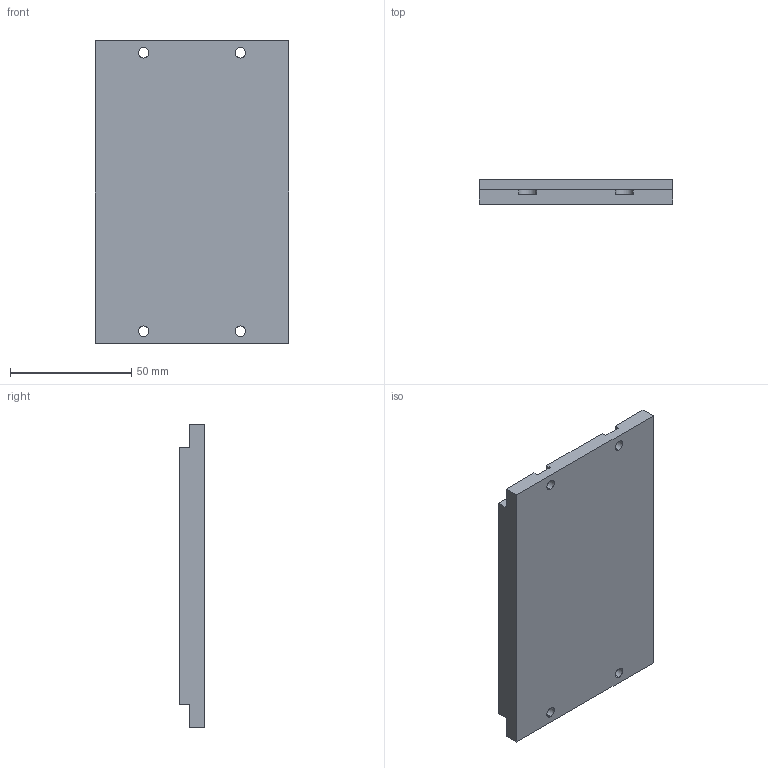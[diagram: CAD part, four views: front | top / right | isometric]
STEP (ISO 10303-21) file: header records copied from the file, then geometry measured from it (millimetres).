
FILE_DESCRIPTION (( 'STEP AP214' ), '1' );
FILE_NAME ('A-MJM100-L80.STEP', '2025-09-05T11:31:14', ( '' ), ( '' ), 'SwSTEP 2.0', 'SolidWorks 2016', '' );
FILE_SCHEMA (( 'AUTOMOTIVE_DESIGN' ));
Length unit declared in the file: millimetre
Products named in the file (1): A-MJM100-L80
Bounding box: 80 x 10.3 x 125 mm (x, y, z)
Volume: 95892.5 mm3; surface area: 24277.3 mm2
Topology: 1 solids, 1 shells, 36 faces, 102 edges, 68 vertices
Faces by surface type: plane 22, cylinder 14
Entity records: 1224 total; most frequent: CARTESIAN_POINT 207, ORIENTED_EDGE 204, DIRECTION 204, EDGE_CURVE 102, VECTOR 74, LINE 74, VERTEX_POINT 68, AXIS2_PLACEMENT_3D 65
